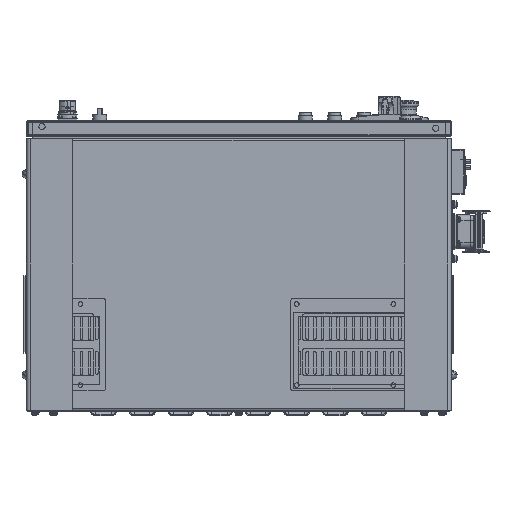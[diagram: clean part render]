
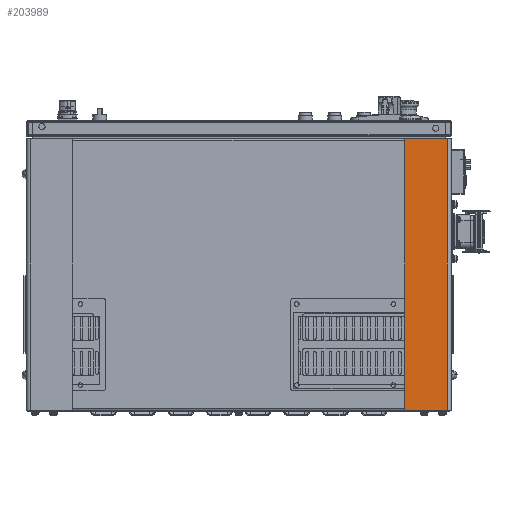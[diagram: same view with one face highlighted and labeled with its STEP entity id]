
A CAD part, front view. The second image highlights one B-rep face of the part: STEP entity #203989.
In plain terms, the highlighted planar face has unit normal (0, -1, 0).
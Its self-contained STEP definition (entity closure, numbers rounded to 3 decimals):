
#4586 = LINE ( 'NONE', #4618, #206221 ) ;
#4589 = DIRECTION ( 'NONE',  ( -1., 0., 0. ) ) ;
#4618 = CARTESIAN_POINT ( 'NONE',  ( 174.558, -344.86, -186.944 ) ) ;
#4709 = CARTESIAN_POINT ( 'NONE',  ( 174.558, -344.86, 164.556 ) ) ;
#4714 = DIRECTION ( 'NONE',  ( 1., 0., 0. ) ) ;
#4717 = DIRECTION ( 'NONE',  ( 0., 0., 1. ) ) ;
#4729 = CARTESIAN_POINT ( 'NONE',  ( 231.558, -344.86, 164.556 ) ) ;
#4730 = LINE ( 'NONE', #4729, #206662 ) ;
#4731 = LINE ( 'NONE', #4709, #206638 ) ;
#4737 = LINE ( 'NONE', #4747, #206611 ) ;
#4747 = CARTESIAN_POINT ( 'NONE',  ( 229.558, -344.86, 164.556 ) ) ;
#4787 = DIRECTION ( 'NONE',  ( 0., 0., 1. ) ) ;
#14595 = VERTEX_POINT ( 'NONE', #30731 ) ;
#15150 = VERTEX_POINT ( 'NONE', #31366 ) ;
#15512 = VERTEX_POINT ( 'NONE', #31971 ) ;
#15543 = VERTEX_POINT ( 'NONE', #31889 ) ;
#30633 = AXIS2_PLACEMENT_3D ( 'NONE', #181598, #181578, #181605 ) ;
#30731 = CARTESIAN_POINT ( 'NONE',  ( 174.558, -344.86, -186.944 ) ) ;
#31366 = CARTESIAN_POINT ( 'NONE',  ( 174.558, -344.86, 164.556 ) ) ;
#31889 = CARTESIAN_POINT ( 'NONE',  ( 229.558, -344.86, -186.944 ) ) ;
#31971 = CARTESIAN_POINT ( 'NONE',  ( 229.558, -344.86, 164.556 ) ) ;
#91324 = EDGE_CURVE ( 'NONE', #15543, #14595, #4586, .T. ) ;
#91491 = EDGE_CURVE ( 'NONE', #15150, #15512, #4730, .T. ) ;
#91494 = EDGE_CURVE ( 'NONE', #15543, #15512, #4737, .T. ) ;
#91527 = EDGE_CURVE ( 'NONE', #14595, #15150, #4731, .T. ) ;
#92426 = EDGE_LOOP ( 'NONE', ( #168509, #168512, #168475, #168598 ) ) ;
#168475 = ORIENTED_EDGE ( 'NONE', *, *, #91491, .F. ) ;
#168509 = ORIENTED_EDGE ( 'NONE', *, *, #91324, .F. ) ;
#168512 = ORIENTED_EDGE ( 'NONE', *, *, #91494, .T. ) ;
#168598 = ORIENTED_EDGE ( 'NONE', *, *, #91527, .F. ) ;
#181578 = DIRECTION ( 'NONE',  ( 0., -1., 0. ) ) ;
#181582 = FACE_OUTER_BOUND ( 'NONE', #92426, .T. ) ;
#181594 = PLANE ( 'NONE',  #30633 ) ;
#181598 = CARTESIAN_POINT ( 'NONE',  ( 231.558, -344.86, 164.556 ) ) ;
#181605 = DIRECTION ( 'NONE',  ( 1., 0., 0. ) ) ;
#203989 = ADVANCED_FACE ( 'NONE', ( #181582 ), #181594, .T. ) ;
#206221 = VECTOR ( 'NONE', #4589, 1000. ) ;
#206611 = VECTOR ( 'NONE', #4717, 1000. ) ;
#206638 = VECTOR ( 'NONE', #4787, 1000. ) ;
#206662 = VECTOR ( 'NONE', #4714, 1000. ) ;
